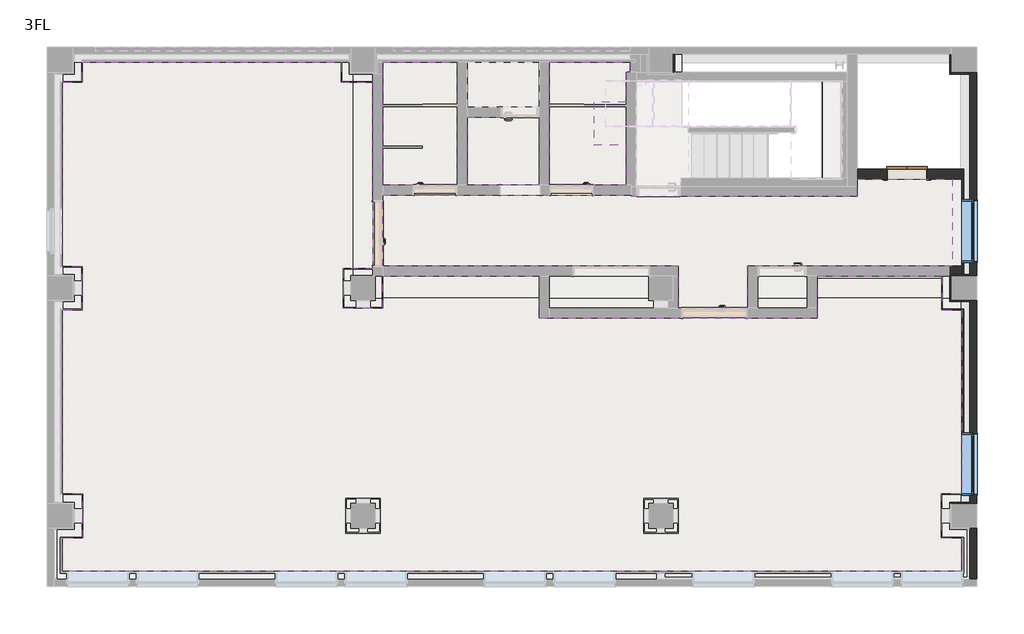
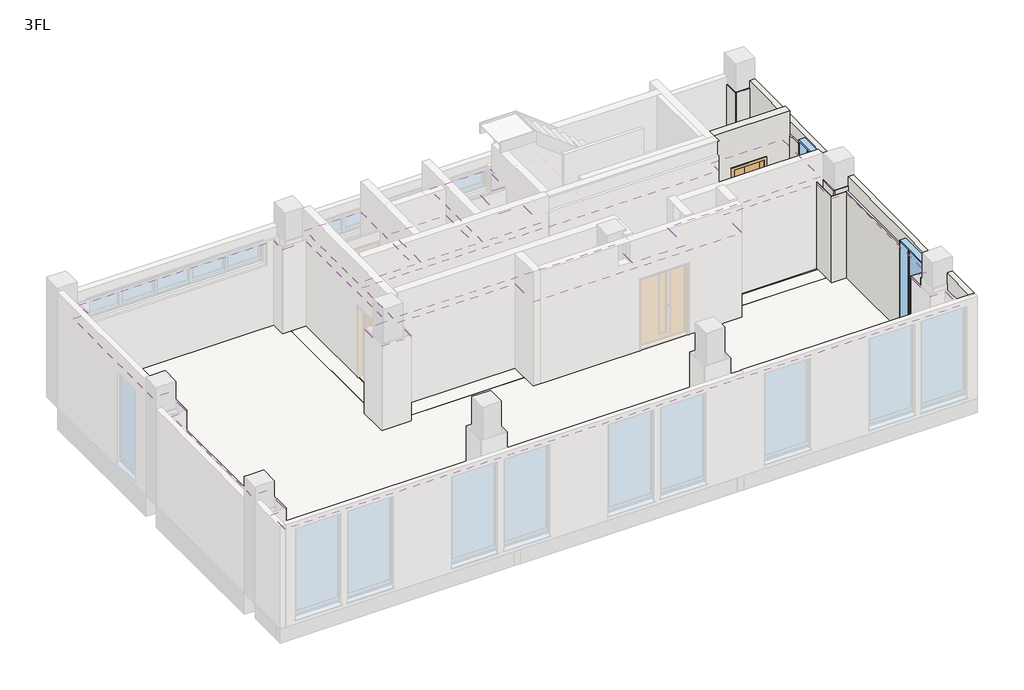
# One storey, part 3 of 4: 16 walls, 10 slabs, 6 coverings, 2 windows, 1 door.
"""IFC4 building model written with IfcOpenShell, lengths in millimetres."""

import ifcopenshell
import ifcopenshell.guid

model = None  # the IFC model being written
_history = None  # IfcOwnerHistory: only IFC2X3 demands one
_inside = {}  # id of a spatial element -> (the spatial element, [elements in it])
_under = {}  # id of a project, library or spatial element -> (it, [spatial elements below it])
_declared = {}  # id of a project -> (the project, [libraries it declares])
_typed = {}  # id of a type object -> (the type object, [elements of that type])
_made_of = {}  # id of a material, layer set ... -> (it, [elements and type objects made of it])


def new_model(schema):
    """Start an empty IFC model of exactly this schema.

    Asked for "IFC4X3", IfcOpenShell would pick the latest addendum, in which some entities
    have other attributes; the version numbers below select the first issue.
    IFC2X3 requires an IfcOwnerHistory on every rooted entity: one is made here for all.
    """
    global model, _history
    if schema == "IFC4X3":
        model = ifcopenshell.file(schema_version=(4, 3, 0, 0))
    else:
        model = ifcopenshell.file(schema=schema)
    _inside.clear()
    _under.clear()
    _declared.clear()
    _typed.clear()
    _made_of.clear()
    _history = None
    if model.schema == "IFC2X3":
        org = make("IfcOrganization", Name="unknown")
        user = make(
            "IfcPersonAndOrganization",
            ThePerson=make("IfcPerson", FamilyName="unknown"),
            TheOrganization=org,
        )
        app = make(
            "IfcApplication",
            ApplicationDeveloper=org,
            Version="unknown",
            ApplicationFullName="unknown",
            ApplicationIdentifier="unknown",
        )
        _history = make(
            "IfcOwnerHistory",
            OwningUser=user,
            OwningApplication=app,
            ChangeAction="ADDED",
            CreationDate=0,
        )
    return model


def make(cls, **values):
    """One entity of the class cls with the attributes given. An attribute that is None is left unset."""
    return model.create_entity(
        cls, **{name: value for name, value in values.items() if value is not None}
    )


def rooted(cls, **values):
    """An entity with a GlobalId (a new one), such as an element, a storey or a relation."""
    return make(cls, GlobalId=ifcopenshell.guid.new(), OwnerHistory=_history, **values)


def si_unit(unit_type, name, prefix=None):
    """IfcSIUnit, for example si_unit("LENGTHUNIT", "METRE", prefix="MILLI")."""
    return make("IfcSIUnit", UnitType=unit_type, Prefix=prefix, Name=name)


def assignment(units):
    """IfcUnitAssignment: the units of a project."""
    return None if units is None else make("IfcUnitAssignment", Units=units)


def point(xyz):
    """IfcCartesianPoint."""
    return None if xyz is None else make("IfcCartesianPoint", Coordinates=xyz)


def direction(xyz):
    """IfcDirection."""
    return None if xyz is None else make("IfcDirection", DirectionRatios=xyz)


def frame(location, z_axis=None, x_axis=None):
    """IfcAxis2Placement3D, a coordinate frame: its origin and axes. An axis left out is left unset."""
    return make(
        "IfcAxis2Placement3D",
        Location=point(location),
        Axis=direction(z_axis),
        RefDirection=direction(x_axis),
    )


def origin():
    """The frame at (0, 0, 0) with its axes left unset."""
    return frame((0.0, 0.0, 0.0))


def origin_with_axes():
    """The frame at (0, 0, 0) with the z axis (0, 0, 1) and the x axis (1, 0, 0) written out."""
    return frame((0.0, 0.0, 0.0), z_axis=(0.0, 0.0, 1.0), x_axis=(1.0, 0.0, 0.0))


def place(relative_to, where):
    """IfcLocalPlacement: puts the frame where relative to a parent placement (None: the world)."""
    return make(
        "IfcLocalPlacement", PlacementRelTo=relative_to, RelativePlacement=where
    )


def context(
    kind, dimensions, precision=None, world=None, true_north=None, identifier=None
):
    """IfcGeometricRepresentationContext, for example the 3D "Model" context."""
    return make(
        "IfcGeometricRepresentationContext",
        ContextIdentifier=identifier,
        ContextType=kind,
        CoordinateSpaceDimension=dimensions,
        Precision=precision,
        WorldCoordinateSystem=world,
        TrueNorth=true_north,
    )


def project(units=None, contexts=None):
    """IfcProject with its units and contexts."""
    return rooted(
        "IfcProject",
        Name="project",
        RepresentationContexts=contexts,
        UnitsInContext=assignment(units),
    )


def spatial(cls, under=None, at=None, **own):
    """A site, building, storey or space (cls), placed at a placement, below another one or the project."""
    s = rooted(cls, ObjectPlacement=at, **own)
    if under is not None:
        _under.setdefault(under.id(), (under, []))[1].append(s)
    return s


def polyline(points):
    """IfcPolyline through the points."""
    return make("IfcPolyline", Points=[point(p) for p in points])


def outline(outer, holes=None, kind="AREA"):
    """IfcArbitraryClosedProfileDef: a profile drawn as a closed curve; with holes, ...WithVoids."""
    if holes is None:
        return make("IfcArbitraryClosedProfileDef", ProfileType=kind, OuterCurve=outer)
    return make(
        "IfcArbitraryProfileDefWithVoids",
        ProfileType=kind,
        OuterCurve=outer,
        InnerCurves=holes,
    )


def extrude(swept, where, along, depth):
    """IfcExtrudedAreaSolid: the profile swept, set in the frame where, extruded along a direction by depth."""
    return make(
        "IfcExtrudedAreaSolid",
        SweptArea=swept,
        Position=where,
        ExtrudedDirection=direction(along),
        Depth=depth,
    )


def faces_of(points, faces, orient=None, outer=None):
    """IfcFace entities. A face is a list of loops; a loop is a list of indices into points, from 0.

    orient and outer hold one flag for each loop. By default every Orientation is true, the
    first loop of a face is its IfcFaceOuterBound and the others are IfcFaceBound.
    """
    made = []
    for i, loops in enumerate(faces):
        bounds = []
        for j, loop in enumerate(loops):
            is_outer = j == 0 if outer is None else outer[i][j]
            bounds.append(
                make(
                    "IfcFaceOuterBound" if is_outer else "IfcFaceBound",
                    Bound=make("IfcPolyLoop", Polygon=[points[k] for k in loop]),
                    Orientation=True if orient is None else orient[i][j],
                )
            )
        made.append(make("IfcFace", Bounds=bounds))
    return made


def faceted_brep(points, faces, orient=None, outer=None, voids=None):
    """IfcFacetedBrep: a solid bounded by flat faces; with voids (closed shells), ...WithVoids."""
    shared = [point(p) for p in points]
    hull = make("IfcClosedShell", CfsFaces=faces_of(shared, faces, orient, outer))
    if voids is None:
        return make("IfcFacetedBrep", Outer=hull)
    return make(
        "IfcFacetedBrepWithVoids",
        Outer=hull,
        Voids=[
            make(cls, CfsFaces=faces_of(shared, fs, o, b)) for cls, fs, o, b in voids
        ],
    )


def shape(context_of_items, identifier, shape_type, items):
    """IfcShapeRepresentation: the items that make up one representation, for example the "Body"."""
    return make(
        "IfcShapeRepresentation",
        ContextOfItems=context_of_items,
        RepresentationIdentifier=identifier,
        RepresentationType=shape_type,
        Items=items,
    )


def source(mapping_origin, context_of_items, identifier, shape_type, items):
    """IfcRepresentationMap: a shape defined once, which mapped items show again and again."""
    return make(
        "IfcRepresentationMap",
        MappingOrigin=mapping_origin,
        MappedRepresentation=shape(context_of_items, identifier, shape_type, items),
    )


def transform(
    local_origin,
    x_axis=None,
    y_axis=None,
    z_axis=None,
    scale=None,
    scale2=None,
    scale3=None,
    uniform=True,
):
    """IfcCartesianTransformationOperator3D, or its non-uniform kind. x_axis, y_axis, z_axis: its Axis1, 2, 3."""
    if uniform:
        return make(
            "IfcCartesianTransformationOperator3D",
            Axis1=direction(x_axis),
            Axis2=direction(y_axis),
            LocalOrigin=point(local_origin),
            Scale=scale,
            Axis3=direction(z_axis),
        )
    return make(
        "IfcCartesianTransformationOperator3DnonUniform",
        Axis1=direction(x_axis),
        Axis2=direction(y_axis),
        LocalOrigin=point(local_origin),
        Scale=scale,
        Axis3=direction(z_axis),
        Scale2=scale2,
        Scale3=scale3,
    )


def mapped(mapping_source, mapping_target):
    """IfcMappedItem: shows the shape of a source again, moved by a transform."""
    return make(
        "IfcMappedItem", MappingSource=mapping_source, MappingTarget=mapping_target
    )


def made_of(thing, what):
    """Note that an element or type object is made of a material, layer set ...; save() writes the relation."""
    if what is not None:
        _made_of.setdefault(what.id(), (what, []))[1].append(thing)
    return thing


def element(
    cls,
    number,
    at=None,
    inside=None,
    cuts=None,
    type_object=None,
    material=None,
    context=None,
    identifier="Body",
    shape_type=None,
    held_by="IfcProductDefinitionShape",
    body=None,
    shapes=None,
    **own,
):
    """One element of the class cls, such as IfcWall. Its Tag is "e" and its number.

    at: its placement. inside: the storey or other place that contains it. cuts: it is an
    opening in that element (IfcRelVoidsElement). A single representation is given by context,
    identifier, shape_type and body (its items); several are given by shapes. held_by: the class
    of the entity that holds the representations. save() writes the other relations.
    """
    e = rooted(cls, Tag="e%d" % number, ObjectPlacement=at, **own)
    if body is not None:
        shapes = [shape(context, identifier, shape_type, body)]
    if shapes is not None:
        e.Representation = make(held_by, Representations=shapes)
    if inside is not None:
        _inside.setdefault(inside.id(), (inside, []))[1].append(e)
    if cuts is not None:
        rooted(
            "IfcRelVoidsElement", RelatingBuildingElement=cuts, RelatedOpeningElement=e
        )
    if type_object is not None:
        _typed.setdefault(type_object.id(), (type_object, []))[1].append(e)
    return made_of(e, material)


def aggregate(whole, parts):
    """IfcRelAggregates: a whole, such as a stair, and the parts it consists of."""
    return rooted("IfcRelAggregates", RelatingObject=whole, RelatedObjects=parts)


def save(model, path):
    """Write the relations noted so far, then the file.

    IfcRelAggregates (storeys below a building ...), IfcRelContainedInSpatialStructure (elements
    in a storey), IfcRelDefinesByType, IfcRelAssociatesMaterial and IfcRelDeclares: one each for
    every whole, place, type object, material and project.
    """
    for whole, parts in _under.values():
        aggregate(whole, parts)
    for where, things in _inside.values():
        rooted(
            "IfcRelContainedInSpatialStructure",
            RelatedElements=things,
            RelatingStructure=where,
        )
    for kind, things in _typed.values():
        rooted("IfcRelDefinesByType", RelatedObjects=things, RelatingType=kind)
    for what, things in _made_of.values():
        rooted("IfcRelAssociatesMaterial", RelatedObjects=things, RelatingMaterial=what)
    for by, libraries in _declared.values():
        rooted("IfcRelDeclares", RelatingContext=by, RelatedDefinitions=libraries)
    model.write(path)


def covering_536f3d13(model_context):
    return source(origin(), model_context, "Body", "SweptSolid", [
        extrude(outline(polyline([(15338.9999956, 6804.5), (15334.9999956, 6804.5), (15335.0, 8789.9999902), (15339.0, 8789.9999902), (15338.9999956, 6804.5)])), frame((0.0, 0.0, 954.0), z_axis=(0.0, 0.0, 1.0), x_axis=(1.0, 0.0, 0.0)), (0.0, 0.0, 1.0), 788.5),
    ])


def elv_h2000xw800_aa5de070(model_context):
    return source(origin(), model_context, "Body", "SweptSolid", [
        extrude(outline(polyline([(-102.3106443, 100.0), (-505.4856443, 100.0), (-505.4856443, 150.8), (-102.3106443, 150.8), (-102.3106443, 100.0)])), origin_with_axes(), (0.0, 0.0, 1.0), 2025.4),
        extrude(outline(polyline([(307.2143557, 100.0), (-95.9606443, 100.0), (-95.9606443, 150.8), (307.2143557, 150.8), (307.2143557, 100.0)])), origin_with_axes(), (0.0, 0.0, 1.0), 2025.4),
        extrude(outline(polyline([(0.0, -505.4856443), (0.0, -499.1356443), (2000.0, -499.1356443), (2000.0, 300.8643557), (0.0, 300.8643557), (0.0, 307.2143557), (2025.4, 307.2143557), (2025.4, -505.4856443), (0.0, -505.4856443)])), frame((0.0, -100.0, 0.0), z_axis=(0.0, 1.0, 0.0), x_axis=(0.0, 0.0, 1.0)), (0.0, 0.0, 1.0), 200.0),
        extrude(outline(polyline([(0.0, -574.1356443), (0.0, -499.1356443), (2000.0, -499.1356443), (2000.0, 300.8643557), (0.0, 300.8643557), (0.0, 375.8643557), (2075.0, 375.8643557), (2075.0, -574.1356443), (0.0, -574.1356443)])), frame((0.0, -125.0, 0.0), z_axis=(0.0, 1.0, 0.0), x_axis=(0.0, 0.0, 1.0)), (0.0, 0.0, 1.0), 25.0),
    ])


def window_02fdaeb4(model_context):
    return source(origin(), model_context, "Body", "SweptSolid", [
        extrude(outline(polyline([(2.5, 835.0), (87.5, 795.0), (87.5, 775.0), (82.5014518, 775.0), (82.5014518, 791.8262891), (-2.5, 831.8269723), (-2.5, 850.0), (2.5, 850.0), (2.5, 835.0)])), frame((-630.0, 0.0, 0.0), z_axis=(1.0, 0.0, 0.0), x_axis=(0.0, 1.0, 0.0)), (0.0, 0.0, 1.0), 1260.0),
        extrude(outline(polyline([(560.0, -10.0), (-560.0, -10.0), (-560.0, -5.0), (560.0, -5.0), (560.0, -10.0)])), frame((0.0, 0.0, 990.0), z_axis=(0.0, 0.0, 1.0), x_axis=(1.0, 0.0, 0.0)), (0.0, 0.0, 1.0), 2340.0),
        extrude(outline(polyline([(3370.0, 600.0), (3370.0, -600.0), (900.0, -600.0), (900.0, 600.0), (3370.0, 600.0)]), holes=[polyline([(3330.0, 560.0), (990.0, 560.0), (990.0, -560.0), (3330.0, -560.0), (3330.0, 560.0)])]), frame((0.0, -22.5, 0.0), z_axis=(0.0, 1.0, 0.0), x_axis=(0.0, 0.0, 1.0)), (0.0, 0.0, 1.0), 30.0),
        extrude(outline(polyline([(-232.5, 850.0), (-232.5, 900.0), (12.5, 890.6666667), (12.5, 850.0), (-232.5, 850.0)])), frame((-600.0, 0.0, 0.0), z_axis=(1.0, 0.0, 0.0), x_axis=(0.0, 1.0, 0.0)), (0.0, 0.0, 1.0), 1200.0),
        extrude(outline(polyline([(850.0, -630.0), (850.0, -600.0), (3370.0, -600.0), (3370.0, 600.0), (850.0, 600.0), (850.0, 630.0), (3400.0, 630.0), (3400.0, -630.0), (850.0, -630.0)])), frame((0.0, -232.5, 0.0), z_axis=(0.0, 1.0, 0.0), x_axis=(0.0, 0.0, 1.0)), (0.0, 0.0, 1.0), 245.0),
    ])


model = new_model("IFC4")

# Units and contexts
model_context = context("Model", 3, world=origin())
ifc_project = project(units=[si_unit("LENGTHUNIT", "METRE", prefix="MILLI")], contexts=[model_context])

# Site, building, storey
site = spatial("IfcSite", under=ifc_project)
building = spatial("IfcBuilding", under=site)
storey = spatial("IfcBuildingStorey", under=building, Name="3FL", Elevation=6700.0)

# Coverings
placement = place(None, origin())
element("IfcCovering", 1, ObjectType="t=4mm", at=placement, inside=storey, context=model_context, shape_type="SweptSolid", body=[
    extrude(outline(polyline([(18147.5000006, -442.5001201), (18147.5000006, -1117.5000822), (32.4998768, -1117.5000822), (32.4998768, -442.4999706), (448.5, -442.4999706), (448.5, 442.4996399), (32.5, 442.4996399), (32.5, 4151.5), (438.5, 4151.5), (438.5, 5028.5), (32.4999974, 5028.5), (32.4999974, 8741.5), (438.5, 8741.5), (438.5, 9147.500003), (5651.5, 9147.500003), (5651.5, 8741.5), (6290.0, 8741.5), (6290.0, 4988.5), (5687.4999426, 4988.5), (5687.4999426, 4187.5000823), (6489.9999994, 4187.5000823), (6489.9999994, 4830.0), (9640.0, 4830.0), (9640.0, 3990.0), (15240.0, 3990.0), (15240.0, 4830.0), (17741.5, 4830.0), (17741.5, 4151.5), (18147.4999993, 4151.5), (18147.4999993, 442.499689), (17731.5010313, 442.499689), (17731.5010313, -442.5001201), (18147.5000006, -442.5001201)]), holes=[polyline([(6440.0, -350.0), (6440.0, 350.0), (5740.0, 350.0), (5740.0, -350.0), (6440.0, -350.0)]), polyline([(12438.5, -348.5), (12438.5, 348.5), (11741.5, 348.5), (11741.5, -348.5), (12438.5, -348.5)])]), frame((0.0, 0.0, 9100.0), z_axis=(0.0, 0.0, 1.0), x_axis=(1.0, 0.0, 0.0)), (0.0, 0.0, 1.0), 4.0),
])
element("IfcCovering", 2, ObjectType="t=4mm", at=placement, inside=storey, context=model_context, shape_type="SweptSolid", body=[
    extrude(outline(polyline([(6490.0, 6465.5), (11490.0, 6465.5), (11490.0, 6440.0), (16040.0, 6440.0), (16040.0, 6790.0), (17955.0, 6790.0), (17955.0, 5030.0), (13840.0, 5030.0), (13840.0, 4190.0), (12440.0, 4190.0), (12440.0, 5030.0), (6490.0, 5030.0), (6490.0, 6465.5)])), frame((0.0, 0.0, 9100.0), z_axis=(0.0, 0.0, 1.0), x_axis=(1.0, 0.0, 0.0)), (0.0, 0.0, 1.0), 4.0),
])
element("IfcCovering", 3, ObjectType="t=4mm", at=placement, inside=storey, context=model_context, shape_type="SweptSolid", body=[
    extrude(outline(polyline([(7990.0, 9147.500003), (7990.0, 6665.5), (6490.0, 6665.5), (6490.0, 9147.500003), (7990.0, 9147.500003)])), frame((0.0, 0.0, 9100.0), z_axis=(0.0, 0.0, 1.0), x_axis=(1.0, 0.0, 0.0)), (0.0, 0.0, 1.0), 4.0),
])
element("IfcCovering", 4, ObjectType="t=4mm", at=placement, inside=storey, context=model_context, shape_type="SweptSolid", body=[
    extrude(outline(polyline([(9640.0, 6665.5), (8190.0, 6665.5), (8190.0, 8040.0), (9640.0, 8040.0), (9640.0, 6665.5)])), frame((0.0, 0.0, 9100.0), z_axis=(0.0, 0.0, 1.0), x_axis=(1.0, 0.0, 0.0)), (0.0, 0.0, 1.0), 4.0),
])
element("IfcCovering", 5, ObjectType="t=4mm", at=placement, inside=storey, context=model_context, shape_type="SweptSolid", body=[
    extrude(outline(polyline([(11470.0, 9147.500003), (11470.0, 8947.5), (11390.0, 8947.5), (11390.0, 8342.5), (10732.5, 8342.5), (10732.5, 7482.5), (11390.0, 7482.5), (11390.0, 6665.5), (9840.0, 6665.5), (9840.0, 9147.500003), (11470.0, 9147.500003)])), frame((0.0, 0.0, 9100.0), z_axis=(0.0, 0.0, 1.0), x_axis=(1.0, 0.0, 0.0)), (0.0, 0.0, 1.0), 4.0),
])
covering_shape = covering_536f3d13(model_context)
element("IfcCovering", 6, ObjectType="天井 3 : 天井 1", at=placement, inside=storey, context=model_context, shape_type="MappedRepresentation", body=[
    mapped(covering_shape, transform((0.0, 0.0, 6685.7142857), x_axis=(1.0, 0.0, 0.0), y_axis=(0.0, 1.0, 0.0), z_axis=(0.0, 0.0, 1.0))),
])

# Door
elv_h2000xw800_shape = elv_h2000xw800_aa5de070(model_context)
element("IfcDoor", 7, ObjectType="D_EV_壁付 : ELV_H2000xW800", at=placement, inside=storey, context=model_context, shape_type="MappedRepresentation", body=[
    mapped(elv_h2000xw800_shape, transform((17145.4856443, 6890.0, 6700.0), x_axis=(1.0, 0.0, 0.0), y_axis=(0.0, 1.0, 0.0), z_axis=(0.0, 0.0, 1.0))),
])

# Slabs
element("IfcSlab", 8, ObjectType="OAフロアの上タイルカーペット", at=placement, inside=storey, context=model_context, shape_type="Brep", body=[
    faceted_brep([(438.5, 9147.500003, 6650.0), (5651.5, 9147.500003, 6650.0), (5651.5, 8741.5, 6650.0), (5890.0, 8741.5, 6650.0), (5890.0, 4988.5, 6650.0), (5687.4999426, 4988.5, 6650.0), (5687.4999426, 4187.5000823, 6650.0), (6489.9999994, 4187.5000823, 6650.0), (6489.9999994, 4390.0, 6650.0), (9640.0, 4390.0, 6650.0), (9640.0, 3990.0, 6650.0), (15240.0, 3990.0, 6650.0), (15240.0, 4390.0, 6650.0), (17741.5, 4390.0, 6650.0), (17741.5, 4151.5, 6650.0), (18147.4999993, 4151.5, 6650.0), (18147.4999993, 442.499689, 6650.0), (17731.5010313, 442.499689, 6650.0), (17731.5010313, -442.5001201, 6650.0), (18147.5000006, -442.5001201, 6650.0), (18147.5000006, -1117.5000822, 6650.0), (32.4999974, -1117.5000822, 6650.0), (32.4999974, -442.4999706, 6650.0), (448.5, -442.4999706, 6650.0), (448.5, 442.4996399, 6650.0), (32.4999974, 442.4996399, 6650.0), (32.4999974, 4151.5, 6650.0), (438.5, 4151.5, 6650.0), (438.5, 5028.5, 6650.0), (32.4999974, 5028.5, 6650.0), (32.4999974, 8741.5, 6650.0), (438.5, 8741.5, 6650.0), (5740.0, 350.0, 6650.0), (5740.0, -350.0, 6650.0), (6440.0, -350.0, 6650.0), (6440.0, 350.0, 6650.0), (11741.5, 348.5, 6650.0), (11741.5, -348.5, 6650.0), (12438.5, -348.5, 6650.0), (12438.5, 348.5, 6650.0), (5651.5, 9147.500003, 6700.0), (438.5, 9147.500003, 6700.0), (438.5, 8741.5, 6700.0), (32.4999974, 8741.5, 6700.0), (32.4999974, 5028.5, 6700.0), (438.5, 5028.5, 6700.0), (438.5, 4151.5, 6700.0), (32.4999974, 4151.5, 6700.0), (32.4999974, 442.4996399, 6700.0), (448.5, 442.4996399, 6700.0), (448.5, -442.4999706, 6700.0), (32.4999974, -442.4999706, 6700.0), (32.4999974, -1117.5000822, 6700.0), (18147.5000006, -1117.5000822, 6700.0), (18147.5000006, -442.5001201, 6700.0), (17731.5010313, -442.5001201, 6700.0), (17731.5010313, 442.499689, 6700.0), (18147.4999993, 442.499689, 6700.0), (18147.4999993, 4151.5, 6700.0), (17741.5, 4151.5, 6700.0), (17741.5, 4390.0, 6700.0), (15240.0, 4390.0, 6700.0), (15240.0, 3990.0, 6700.0), (9640.0, 3990.0, 6700.0), (9640.0, 4390.0, 6700.0), (6489.9999994, 4390.0, 6700.0), (6489.9999994, 4187.5000823, 6700.0), (5687.4999426, 4187.5000823, 6700.0), (5687.4999426, 4988.5, 6700.0), (5890.0, 4988.5, 6700.0), (5890.0, 8741.5, 6700.0), (5651.5, 8741.5, 6700.0), (5740.0, -350.0, 6700.0), (5740.0, 350.0, 6700.0), (6440.0, 350.0, 6700.0), (6440.0, -350.0, 6700.0), (11741.5, -348.5, 6700.0), (11741.5, 348.5, 6700.0), (12438.5, 348.5, 6700.0), (12438.5, -348.5, 6700.0), (5890.0, 8741.5, 6690.0), (5890.0, 4988.5, 6690.0), (6489.9999994, 4390.0, 6690.0), (9640.0, 4390.0, 6690.0), (15240.0, 4390.0, 6690.0), (17741.5, 4390.0, 6690.0)], [[[0, 1, 2, 3, 4, 5, 6, 7, 8, 9, 10, 11, 12, 13, 14, 15, 16, 17, 18, 19, 20, 21, 22, 23, 24, 25, 26, 27, 28, 29, 30, 31], [32, 33, 34, 35], [36, 37, 38, 39]], [[40, 41, 42, 43, 44, 45, 46, 47, 48, 49, 50, 51, 52, 53, 54, 55, 56, 57, 58, 59, 60, 61, 62, 63, 64, 65, 66, 67, 68, 69, 70, 71], [72, 73, 74, 75], [76, 77, 78, 79]], [[1, 0, 41, 40]], [[2, 1, 40, 71]], [[3, 2, 71, 70, 80]], [[4, 3, 80, 70, 69, 81]], [[5, 4, 81, 69, 68]], [[6, 5, 68, 67]], [[7, 6, 67, 66]], [[8, 7, 66, 65, 82]], [[9, 8, 82, 65, 64, 83]], [[10, 9, 83, 64, 63]], [[11, 10, 63, 62]], [[12, 11, 62, 61, 84]], [[13, 12, 84, 61, 60, 85]], [[21, 20, 53, 52]], [[30, 29, 44, 43]], [[16, 15, 58, 57]], [[22, 21, 52, 51]], [[23, 22, 51, 50]], [[24, 23, 50, 49]], [[25, 24, 49, 48]], [[26, 25, 48, 47]], [[27, 26, 47, 46]], [[28, 27, 46, 45]], [[29, 28, 45, 44]], [[31, 30, 43, 42]], [[0, 31, 42, 41]], [[14, 13, 85, 60, 59]], [[15, 14, 59, 58]], [[17, 16, 57, 56]], [[18, 17, 56, 55]], [[19, 18, 55, 54]], [[20, 19, 54, 53]], [[33, 32, 73, 72]], [[34, 33, 72, 75]], [[35, 34, 75, 74]], [[32, 35, 74, 73]], [[37, 36, 77, 76]], [[38, 37, 76, 79]], [[39, 38, 79, 78]], [[36, 39, 78, 77]]]),
])
element("IfcSlab", 9, ObjectType="タイルカーペット t=10mm", at=placement, inside=storey, context=model_context, shape_type="SweptSolid", body=[
    extrude(outline(polyline([(9640.0, 4390.0), (6489.9999994, 4390.0), (6489.9999994, 4830.0), (9640.0, 4830.0), (9640.0, 4390.0)])), frame((0.0, 0.0, 6690.0), z_axis=(0.0, 0.0, 1.0), x_axis=(1.0, 0.0, 0.0)), (0.0, 0.0, 1.0), 10.0),
    extrude(outline(polyline([(17741.5, 4390.0), (15240.0, 4390.0), (15240.0, 4782.5), (17741.5, 4782.5), (17741.5, 4390.0)])), frame((0.0, 0.0, 6690.0), z_axis=(0.0, 0.0, 1.0), x_axis=(1.0, 0.0, 0.0)), (0.0, 0.0, 1.0), 10.0),
])
element("IfcSlab", 10, ObjectType="ビニル床ビシート t=10mm", at=placement, inside=storey, context=model_context, shape_type="Brep", body=[
    faceted_brep([(13840.0, 5030.0, 6690.0), (13840.0, 4190.0, 6690.0), (12440.0, 4190.0, 6690.0), (12440.0, 5030.0, 6690.0), (6490.0, 5030.0, 6690.0), (6490.0, 6465.5, 6690.0), (9875.0, 6465.5, 6690.0), (10705.0, 6465.5, 6690.0), (11490.0, 6465.5, 6690.0), (11490.0, 6440.0, 6690.0), (12512.5, 6440.0, 6690.0), (16040.0, 6440.0, 6690.0), (16040.0, 6790.0, 6690.0), (18147.5, 6790.0, 6690.0), (18147.5, 5030.0, 6690.0), (13840.0, 4190.0, 6700.0), (13840.0, 5030.0, 6700.0), (18147.5, 5030.0, 6700.0), (18147.5, 6790.0, 6700.0), (16040.0, 6790.0, 6700.0), (16040.0, 6440.0, 6700.0), (12467.5, 6440.0, 6700.0), (11612.5, 6440.0, 6700.0), (11490.0, 6440.0, 6700.0), (11490.0, 6465.5, 6700.0), (10705.0, 6465.5, 6700.0), (9875.0, 6465.5, 6700.0), (6490.0, 6465.5, 6700.0), (6490.0, 5030.0, 6700.0), (12440.0, 5030.0, 6700.0), (12440.0, 4190.0, 6700.0)], [[[0, 1, 2, 3, 4, 5, 6, 7, 8, 9, 10, 11, 12, 13, 14]], [[15, 16, 17, 18, 19, 20, 21, 22, 23, 24, 25, 26, 27, 28, 29, 30]], [[1, 0, 16, 15]], [[2, 1, 15, 30]], [[3, 2, 30, 29]], [[4, 3, 29, 28]], [[5, 4, 28, 27]], [[5, 27, 26, 25, 24, 8, 7, 6]], [[19, 12, 11, 20]], [[13, 12, 19, 18]], [[14, 13, 18, 17]], [[0, 14, 17, 16]], [[9, 23, 22, 21, 20, 11, 10]], [[23, 9, 8, 24]]]),
])
element("IfcSlab", 11, ObjectType="ビニル床ビシート t=10mm", at=placement, inside=storey, context=model_context, shape_type="SweptSolid", body=[
    extrude(outline(polyline([(11390.0, 6665.5), (10705.0, 6665.5), (10705.0, 6465.5), (9875.0, 6465.5), (9875.0, 6675.5), (9840.0, 6675.5), (9840.0, 9130.0), (11470.0, 9130.0), (11470.0, 8947.5), (11390.0, 8947.5), (11390.0, 6665.5)])), frame((0.0, 0.0, 6690.0), z_axis=(0.0, 0.0, 1.0), x_axis=(1.0, 0.0, 0.0)), (0.0, 0.0, 1.0), 10.0),
])
element("IfcSlab", 12, ObjectType="ビニル床ビシート t=10mm", at=placement, inside=storey, context=model_context, shape_type="Brep", body=[
    faceted_brep([(9640.0, 6665.5, 6690.0), (8190.0, 6665.5, 6690.0), (8190.0, 8040.0, 6690.0), (9640.0, 8040.0, 6690.0), (8190.0, 6665.5, 6700.0), (9640.0, 6665.5, 6700.0), (9640.0, 8040.0, 6700.0), (9617.5, 8040.0, 6700.0), (8862.5, 8040.0, 6700.0), (8190.0, 8040.0, 6700.0)], [[[0, 1, 2, 3]], [[4, 5, 6, 7, 8, 9]], [[1, 0, 5, 4]], [[1, 4, 9, 2]], [[5, 0, 3, 6]], [[3, 2, 9, 8, 7, 6]]]),
    faceted_brep([(8190.0, 9130.0, 6690.0), (9640.0, 9130.0, 6690.0), (9640.0, 8240.0, 6690.0), (8190.0, 8240.0, 6690.0), (9640.0, 9130.0, 6700.0), (8190.0, 9130.0, 6700.0), (8190.0, 8240.0, 6700.0), (8862.5, 8240.0, 6700.0), (9617.5, 8240.0, 6700.0), (9640.0, 8240.0, 6700.0)], [[[0, 1, 2, 3]], [[4, 5, 6, 7, 8, 9]], [[5, 0, 3, 6]], [[1, 0, 5, 4]], [[1, 4, 9, 2]], [[3, 2, 9, 8, 7, 6]]]),
])
element("IfcSlab", 13, ObjectType="ビニル床ビシート t=10mm", at=placement, inside=storey, context=model_context, shape_type="SweptSolid", body=[
    extrude(outline(polyline([(7990.0, 6665.5), (6490.0, 6665.5), (6490.0, 9130.0), (7990.0, 9130.0), (7990.0, 6665.5)])), frame((0.0, 0.0, 6690.0), z_axis=(0.0, 0.0, 1.0), x_axis=(1.0, 0.0, 0.0)), (0.0, 0.0, 1.0), 10.0),
])
element("IfcSlab", 14, ObjectType="タイルカーペット t=10mm", at=placement, inside=storey, context=model_context, shape_type="SweptSolid", body=[
    extrude(outline(polyline([(5890.0, 4988.5), (5890.0, 8741.5), (6290.0, 8741.5), (6290.0, 4988.5), (5890.0, 4988.5)])), frame((0.0, 0.0, 6690.0), z_axis=(0.0, 0.0, 1.0), x_axis=(1.0, 0.0, 0.0)), (0.0, 0.0, 1.0), 10.0),
])
element("IfcSlab", 15, ObjectType="DS1t150", at=placement, inside=storey, context=model_context, shape_type="SweptSolid", body=[
    extrude(outline(polyline([(-70.0, -1275.0), (-70.0, -250.0), (250.0, -250.0), (250.0, -150.0), (5840.0, -150.0), (5840.0, -250.0), (6000.0, -250.0), (6000.0, -1275.0), (-70.0, -1275.0)])), frame((0.0, 0.0, 6400.0), z_axis=(0.0, 0.0, 1.0), x_axis=(1.0, 0.0, 0.0)), (0.0, 0.0, 1.0), 150.0),
    extrude(outline(polyline([(12340.0, -150.0), (17930.0, -150.0), (17930.0, -250.0), (18250.0, -250.0), (18250.0, -1230.0), (12180.0, -1230.0), (12180.0, -250.0), (12340.0, -250.0), (12340.0, -150.0)])), frame((0.0, 0.0, 6400.0), z_axis=(0.0, 0.0, 1.0), x_axis=(1.0, 0.0, 0.0)), (0.0, 0.0, 1.0), 150.0),
    extrude(outline(polyline([(12000.0, -1275.0), (6180.0, -1275.0), (6180.0, -250.0), (6340.0, -250.0), (6340.0, -150.0), (11840.0, -150.0), (11840.0, -250.0), (12000.0, -250.0), (12000.0, -1275.0)])), frame((0.0, 0.0, 6400.0), z_axis=(0.0, 0.0, 1.0), x_axis=(1.0, 0.0, 0.0)), (0.0, 0.0, 1.0), 150.0),
])
element("IfcSlab", 16, ObjectType="DS1t150", at=placement, inside=storey, context=model_context, shape_type="Brep", body=[
    faceted_brep([(50.0, 4840.0, 6400.0), (50.0, 8930.0, 6400.0), (250.0, 8930.0, 6400.0), (250.0, 9130.0, 6400.0), (5840.0, 9130.0, 6400.0), (5840.0, 8930.0, 6400.0), (5940.0, 8930.0, 6400.0), (5940.0, 4840.0000077, 6400.0), (5840.0, 4840.0000077, 6400.0), (5840.0, 4740.0, 6400.0), (250.0, 4740.0, 6400.0), (250.0, 4840.0, 6400.0), (50.0, 8930.0, 6550.0), (50.0, 4840.0, 6550.0), (250.0, 4840.0, 6550.0), (250.0, 4740.0, 6550.0), (5840.0, 4740.0, 6550.0), (5840.0, 4840.0000077, 6550.0), (5940.0, 4840.0000077, 6550.0), (5940.0, 8930.0, 6550.0), (5890.0, 8930.0, 6550.0), (5840.0, 8930.0, 6550.0), (5840.0, 9130.0, 6550.0), (250.0, 9130.0, 6550.0), (250.0, 8930.0, 6550.0)], [[[0, 1, 2, 3, 4, 5, 6, 7, 8, 9, 10, 11]], [[12, 13, 14, 15, 16, 17, 18, 19, 20, 21, 22, 23, 24]], [[1, 0, 13, 12]], [[4, 3, 23, 22]], [[7, 6, 19, 18]], [[10, 9, 16, 15]], [[2, 1, 12, 24]], [[3, 2, 24, 23]], [[5, 4, 22, 21]], [[6, 5, 21, 20, 19]], [[8, 7, 18, 17]], [[9, 8, 17, 16]], [[11, 10, 15, 14]], [[0, 11, 14, 13]]]),
    faceted_brep([(5840.0, 4440.0, 6400.0), (5840.0, 4339.9999923, 6400.0), (5940.0, 4339.9999923, 6400.0), (5940.0, 250.0, 6400.0), (5840.0, 250.0, 6400.0), (5840.0, 150.0, 6400.0), (250.0, 150.0, 6400.0), (250.0, 250.0, 6400.0), (50.0, 250.0, 6400.0), (50.0, 4340.0, 6400.0), (250.0, 4340.0, 6400.0), (250.0, 4440.0, 6400.0), (5840.0, 4339.9999923, 6550.0), (5840.0, 4440.0, 6550.0), (250.0, 4440.0, 6550.0), (250.0, 4340.0, 6550.0), (50.0, 4340.0, 6550.0), (50.0, 250.0, 6550.0), (250.0, 250.0, 6550.0), (250.0, 150.0, 6550.0), (5840.0, 150.0, 6550.0), (5840.0, 250.0, 6550.0), (5940.0, 250.0, 6550.0), (5940.0, 4339.9999923, 6550.0)], [[[0, 1, 2, 3, 4, 5, 6, 7, 8, 9, 10, 11]], [[12, 13, 14, 15, 16, 17, 18, 19, 20, 21, 22, 23]], [[1, 0, 13, 12]], [[2, 1, 12, 23]], [[3, 2, 23, 22]], [[6, 5, 20, 19]], [[9, 8, 17, 16]], [[0, 11, 14, 13]], [[4, 3, 22, 21]], [[5, 4, 21, 20]], [[7, 6, 19, 18]], [[8, 7, 18, 17]], [[10, 9, 16, 15]], [[11, 10, 15, 14]]]),
    faceted_brep([(11840.0, 150.0, 6400.0), (6340.0, 150.0, 6400.0), (6340.0, 250.0, 6400.0), (6240.0, 250.0, 6400.0), (6240.0, 4339.9999923, 6400.0), (6340.0, 4339.9999923, 6400.0), (6340.0, 4440.0, 6400.0), (9640.0, 4440.0, 6400.0), (9840.0, 4440.0, 6400.0), (11840.0, 4440.0, 6400.0), (11840.0, 4340.0, 6400.0), (11940.0, 4340.0, 6400.0), (11940.0, 4190.0, 6400.0), (11940.0, 3990.0, 6400.0), (11940.0, 250.0, 6400.0), (11840.0, 250.0, 6400.0), (6340.0, 150.0, 6550.0), (11840.0, 150.0, 6550.0), (11840.0, 250.0, 6550.0), (11940.0, 250.0, 6550.0), (11940.0, 4340.0, 6550.0), (11840.0, 4340.0, 6550.0), (11840.0, 4390.0, 6550.0), (11840.0, 4440.0, 6550.0), (6340.0, 4440.0, 6550.0), (6340.0, 4390.0, 6550.0), (6340.0, 4339.9999923, 6550.0), (6240.0, 4339.9999923, 6550.0), (6240.0, 250.0, 6550.0), (6340.0, 250.0, 6550.0)], [[[0, 1, 2, 3, 4, 5, 6, 7, 8, 9, 10, 11, 12, 13, 14, 15]], [[16, 17, 18, 19, 20, 21, 22, 23, 24, 25, 26, 27, 28, 29]], [[1, 0, 17, 16]], [[4, 3, 28, 27]], [[9, 8, 7, 6, 24, 23]], [[14, 13, 12, 11, 20, 19]], [[15, 14, 19, 18]], [[0, 15, 18, 17]], [[2, 1, 16, 29]], [[3, 2, 29, 28]], [[5, 4, 27, 26]], [[6, 5, 26, 25, 24]], [[10, 9, 23, 22, 21]], [[11, 10, 21, 20]]]),
    faceted_brep([(12340.0, 4440.0, 6400.0), (12440.0, 4440.0, 6400.0), (13840.0, 4440.0, 6400.0), (14040.0, 4440.0, 6400.0), (15040.0, 4440.0, 6400.0), (15240.0, 4440.0, 6400.0), (17930.0, 4440.0, 6400.0), (17930.0, 4340.0, 6400.0), (18125.0, 4340.0, 6400.0), (18125.0, 250.0, 6400.0), (17930.0, 250.0, 6400.0), (17930.0, 150.0, 6400.0), (12340.0, 150.0, 6400.0), (12340.0, 250.0, 6400.0), (12240.0, 250.0, 6400.0), (12240.0, 3990.0, 6400.0), (12240.0, 4190.0, 6400.0), (12240.0, 4340.0, 6400.0), (12340.0, 4340.0, 6400.0), (17930.0, 4440.0, 6550.0), (12340.0, 4440.0, 6550.0), (12340.0, 4390.0, 6550.0), (12340.0, 4340.0, 6550.0), (12240.0, 4340.0, 6550.0), (12240.0, 250.0, 6550.0), (12340.0, 250.0, 6550.0), (12340.0, 150.0, 6550.0), (17930.0, 150.0, 6550.0), (17930.0, 250.0, 6550.0), (18125.0, 250.0, 6550.0), (18125.0, 4340.0, 6550.0), (17930.0, 4340.0, 6550.0), (17930.0, 4390.0, 6550.0)], [[[0, 1, 2, 3, 4, 5, 6, 7, 8, 9, 10, 11, 12, 13, 14, 15, 16, 17, 18]], [[19, 20, 21, 22, 23, 24, 25, 26, 27, 28, 29, 30, 31, 32]], [[6, 5, 4, 3, 2, 1, 0, 20, 19]], [[9, 8, 30, 29]], [[12, 11, 27, 26]], [[17, 16, 15, 14, 24, 23]], [[13, 12, 26, 25]], [[14, 13, 25, 24]], [[18, 17, 23, 22]], [[0, 18, 22, 21, 20]], [[7, 6, 19, 32, 31]], [[8, 7, 31, 30]], [[10, 9, 29, 28]], [[11, 10, 28, 27]]]),
])
element("IfcSlab", 17, ObjectType="DS1t150", at=placement, inside=storey, context=model_context, shape_type="Brep", body=[
    faceted_brep([(12364.9999035, 9305.0, 6540.0), (12512.5, 9305.0, 6540.0), (12512.5, 7716.0, 6540.0), (12732.5, 7716.0, 6540.0), (12732.5, 6804.5, 6540.0), (12512.5, 6804.5, 6540.0), (12512.5, 6640.0, 6540.0), (12512.5, 6440.0, 6540.0), (16040.0, 6440.0, 6540.0), (16040.0, 6990.0, 6540.0), (18130.0, 6990.0, 6540.0), (18130.0, 4840.0, 6540.0), (17930.0, 4840.0, 6540.0), (17930.0, 4740.0, 6540.0), (12340.0, 4740.0, 6540.0), (12340.0, 4830.0, 6540.0), (12340.0, 4840.0, 6540.0), (12240.0, 4840.0, 6540.0), (12240.0, 6440.0, 6540.0), (12240.0, 6640.0, 6540.0), (12240.0, 8930.0, 6540.0), (12364.9999035, 8930.0, 6540.0), (11840.0, 4740.0, 6540.0), (6340.0, 4740.0, 6540.0), (6340.0, 4830.0, 6540.0), (6340.0, 4840.0, 6540.0), (6290.0, 4840.0, 6540.0), (6240.0, 4840.0, 6540.0), (6240.0, 8930.0, 6540.0), (6340.0, 8930.0, 6540.0), (6340.0, 9130.0, 6540.0), (7990.0, 9130.0, 6540.0), (8190.0, 9130.0, 6540.0), (9640.0, 9130.0, 6540.0), (9840.0, 9130.0, 6540.0), (11840.0, 9130.0, 6540.0), (11840.0, 8930.0, 6540.0), (11940.0, 8930.0, 6540.0), (11940.0, 6640.0, 6540.0), (11940.0, 6440.0, 6540.0), (11940.0, 4840.0, 6540.0), (11840.0, 4840.0, 6540.0), (11840.0, 4830.0, 6540.0), (12512.5, 9305.0, 6690.0), (12364.9999035, 9305.0, 6690.0), (12364.9999035, 8947.5, 6690.0), (12364.9999035, 8930.0, 6690.0), (12360.0, 8930.0, 6690.0), (11840.0, 8930.0, 6690.0), (11840.0, 8947.5, 6690.0), (11840.0, 9130.0, 6690.0), (11814.9999426, 9130.0, 6690.0), (11670.0, 9130.0, 6690.0), (11470.0, 9130.0, 6690.0), (9840.0, 9130.0, 6690.0), (9640.0, 9130.0, 6690.0), (8190.0, 9130.0, 6690.0), (7990.0, 9130.0, 6690.0), (6490.0, 9130.0, 6690.0), (6365.0, 9130.0, 6690.0), (6340.0, 9130.0, 6690.0), (6340.0, 8930.0, 6690.0), (5890.0, 8930.0, 6690.0), (5890.0, 8905.0000823, 6690.0), (5890.0, 8754.0, 6690.0), (5890.0, 8741.5, 6690.0), (5890.0, 4988.5, 6690.0), (5890.0, 4976.0, 6690.0), (5890.0, 4840.0, 6690.0), (6290.0, 4840.0, 6690.0), (6340.0, 4840.0, 6690.0), (6340.0, 4830.0, 6690.0), (6340.0, 4390.0, 6690.0), (6477.4999994, 4390.0, 6690.0), (6489.9999994, 4390.0, 6690.0), (9640.0, 4390.0, 6690.0), (9840.0, 4390.0, 6690.0), (11840.0, 4390.0, 6690.0), (11840.0, 4830.0, 6690.0), (11840.0, 4840.0, 6690.0), (12340.0, 4840.0, 6690.0), (12340.0, 4830.0, 6690.0), (12340.0, 4390.0, 6690.0), (12440.0, 4390.0, 6690.0), (13840.0, 4390.0, 6690.0), (14040.0, 4390.0, 6690.0), (15040.0, 4390.0, 6690.0), (15240.0, 4390.0, 6690.0), (17741.5, 4390.0, 6690.0), (17754.0, 4390.0, 6690.0), (17905.0000284, 4390.0, 6690.0), (17930.0, 4390.0, 6690.0), (17930.0, 4840.0, 6690.0), (18130.0, 4840.0, 6690.0), (18130.0, 4865.0, 6690.0), (18130.0, 5030.0, 6690.0), (18130.0, 6790.0, 6690.0), (18130.0, 6990.0, 6690.0), (16040.0, 6990.0, 6690.0), (16040.0, 6790.0, 6690.0), (16040.0, 6440.0, 6690.0), (12512.5, 6440.0, 6690.0), (12512.5, 6640.0, 6690.0), (12512.5, 6804.5, 6690.0), (12732.5, 6804.5, 6690.0), (12732.5, 7716.0, 6690.0), (12512.5, 7716.0, 6690.0), (12512.5, 8747.5, 6690.0), (12512.5, 8947.5, 6690.0), (12364.9999035, 9305.0, 6550.0), (12512.5, 6440.0, 6550.0), (16040.0, 6440.0, 6550.0), (18130.0, 6990.0, 6550.0), (12340.0, 4390.0, 6550.0), (12440.0, 4390.0, 6550.0), (13840.0, 4390.0, 6550.0), (14040.0, 4390.0, 6550.0), (15040.0, 4390.0, 6550.0), (15240.0, 4390.0, 6550.0), (17741.5, 4390.0, 6550.0), (17754.0, 4390.0, 6550.0), (17905.0000284, 4390.0, 6550.0), (17930.0, 4390.0, 6550.0), (5890.0, 8930.0, 6550.0), (5890.0, 8905.0000823, 6550.0), (5890.0, 8754.0, 6550.0), (5890.0, 8741.5, 6550.0), (5890.0, 4988.5, 6550.0), (5890.0, 4976.0, 6550.0), (5890.0, 4840.0, 6550.0), (17929.9999994, 4740.0, 6550.0), (12340.0000006, 4740.0, 6550.0), (17930.0, 4440.0, 6550.0), (12340.0, 4440.0, 6550.0), (6340.0000006, 4740.0, 6550.0), (11840.0, 4740.0, 6550.0), (11840.0, 4440.0, 6550.0), (11840.0, 4390.0, 6550.0), (9840.0, 4390.0, 6550.0), (9640.0, 4390.0, 6550.0), (6489.9999994, 4390.0, 6550.0), (6477.4999994, 4390.0, 6550.0), (6340.0, 4390.0, 6550.0), (6340.0, 4440.0, 6550.0), (5940.0, 8930.0, 6550.0), (6240.0, 8930.0, 6550.0), (6240.0, 4840.0000006, 6550.0), (11940.0, 8929.9999994, 6550.0), (11940.0, 4840.0000006, 6550.0), (12240.0, 8930.0, 6550.0), (12240.0, 4840.0000006, 6550.0), (6340.0, 8930.0, 6550.0), (6340.0, 9130.0, 6550.0), (11840.0, 9130.0, 6550.0), (11840.0, 8930.0, 6550.0), (12364.9999035, 8930.0, 6550.0), (17930.0, 4840.0, 6550.0), (12340.0, 4840.0, 6550.0), (11840.0, 4840.0, 6550.0), (6340.0, 4840.0, 6550.0)], [[[0, 1, 2, 3, 4, 5, 6, 7, 8, 9, 10, 11, 12, 13, 14, 15, 16, 17, 18, 19, 20, 21]], [[22, 23, 24, 25, 26, 27, 28, 29, 30, 31, 32, 33, 34, 35, 36, 37, 38, 39, 40, 41, 42]], [[43, 44, 45, 46, 47, 48, 49, 50, 51, 52, 53, 54, 55, 56, 57, 58, 59, 60, 61, 62, 63, 64, 65, 66, 67, 68, 69, 70, 71, 72, 73, 74, 75, 76, 77, 78, 79, 80, 81, 82, 83, 84, 85, 86, 87, 88, 89, 90, 91, 92, 93, 94, 95, 96, 97, 98, 99, 100, 101, 102, 103, 104, 105, 106, 107, 108]], [[1, 0, 109, 44, 43]], [[7, 6, 5, 103, 102, 101, 110]], [[8, 7, 110, 101, 100, 111]], [[9, 8, 111, 100, 99, 98]], [[10, 9, 98, 97, 112]], [[11, 10, 112, 97, 96, 95, 94, 93]], [[91, 90, 89, 88, 87, 86, 85, 84, 83, 82, 113, 114, 115, 116, 117, 118, 119, 120, 121, 122]], [[68, 67, 66, 65, 64, 63, 62, 123, 124, 125, 126, 127, 128, 129]], [[130, 131, 14, 13]], [[131, 130, 132, 122, 121, 120, 119, 118, 117, 116, 115, 114, 113, 133]], [[134, 135, 136, 137, 138, 139, 140, 141, 142, 143]], [[129, 128, 127, 126, 125, 124, 123, 144, 145, 146]], [[135, 134, 23, 22]], [[146, 145, 28, 27]], [[147, 148, 40, 39, 38, 37]], [[148, 147, 149, 150]], [[150, 149, 20, 19, 18, 17]], [[2, 1, 43, 108, 107, 106]], [[3, 2, 106, 105]], [[4, 3, 105, 104]], [[5, 4, 104, 103]], [[62, 61, 151, 29, 28, 145, 144, 123]], [[30, 29, 151, 61, 60, 152]], [[35, 34, 33, 32, 31, 30, 152, 60, 59, 58, 57, 56, 55, 54, 53, 52, 51, 50, 153]], [[36, 35, 153, 50, 49, 48, 154]], [[48, 47, 46, 155, 21, 20, 149, 147, 37, 36, 154]], [[0, 21, 155, 46, 45, 44, 109]], [[12, 11, 93, 92, 156]], [[92, 91, 122, 132, 130, 13, 12, 156]], [[82, 81, 80, 157, 16, 15, 14, 131, 133, 113]], [[80, 79, 158, 41, 40, 148, 150, 17, 16, 157]], [[79, 78, 77, 137, 136, 135, 22, 42, 41, 158]], [[77, 76, 75, 74, 73, 72, 142, 141, 140, 139, 138, 137]], [[72, 71, 70, 159, 25, 24, 23, 134, 143, 142]], [[70, 69, 68, 129, 146, 27, 26, 25, 159]]]),
])

# Walls
element("IfcWall", 18, ObjectType="•RC30+12.5", at=placement, inside=storey, context=model_context, shape_type="Brep", body=[
    faceted_brep([(18189.9999993, 429.999689, 6550.0), (18189.9999993, 4164.0, 6550.0), (18189.9999993, 4164.0, 9150.0), (18189.9999993, 1670.0, 9150.0), (18189.9999993, 1670.0, 6745.0), (18189.9999993, 429.999689, 6745.0), (18147.4999993, 4164.0, 6550.0), (18147.4999993, 4151.5, 6550.0), (18147.4999993, 442.499689, 6550.0), (18147.4999993, 429.999689, 6550.0), (18147.4999993, 429.999689, 6745.0), (18147.4999993, 1670.0, 6745.0), (18147.4999993, 1670.0, 9150.0), (18147.4999993, 4151.5, 9150.0), (18147.4999993, 4164.0, 9150.0)], [[[0, 1, 2, 3, 4, 5]], [[6, 7, 8, 9, 10, 11, 12, 13, 14]], [[1, 0, 9, 8, 7, 6]], [[2, 14, 13, 12, 3]], [[2, 1, 6, 14]], [[4, 11, 10, 5]], [[11, 4, 3, 12]], [[9, 0, 5, 10]]]),
])
element("IfcWall", 19, ObjectType="•RC30+12.5", at=placement, inside=storey, context=model_context, shape_type="Brep", body=[
    faceted_brep([(18190.0, 4865.0, 6550.0), (18190.0, 6990.0, 6550.0), (18190.0, 6990.0, 9150.0), (18190.0, 6400.0, 9150.0), (18190.0, 6400.0, 6745.0), (18190.0, 5080.0, 6745.0), (18190.0, 5080.0, 9150.0), (18190.0, 4865.0, 9150.0), (18147.5, 6990.0, 6550.0), (18147.5, 6790.0, 6550.0), (18147.5, 5030.0, 6550.0), (18147.5, 4865.0, 6550.0), (18147.5, 4865.0, 9150.0), (18147.5, 5080.0, 9150.0), (18147.5, 5080.0, 6745.0), (18147.5, 6400.0, 6745.0), (18147.5, 6400.0, 9150.0), (18147.5, 6990.0, 9150.0)], [[[0, 1, 2, 3, 4, 5, 6, 7]], [[8, 9, 10, 11, 12, 13, 14, 15, 16, 17]], [[1, 0, 11, 10, 9, 8]], [[12, 7, 6, 13]], [[2, 17, 16, 3]], [[0, 7, 12, 11]], [[2, 1, 8, 17]], [[4, 15, 14, 5]], [[5, 14, 13, 6]], [[15, 4, 3, 16]]]),
])
element("IfcWall", 20, ObjectType="•t=25mm", at=placement, inside=storey, context=model_context, shape_type="Brep", body=[
    faceted_brep([(12364.9999035, 8930.0000823, 6550.0), (12364.9999035, 9305.0, 6550.0), (12364.9999035, 9305.0, 6690.0), (12364.9999035, 9305.0, 9150.0), (12364.9999035, 8930.0000823, 9150.0), (12364.9999035, 8930.0000823, 6690.0), (12339.9999035, 9305.0, 6550.0), (12339.9999035, 8930.0000823, 6550.0), (12339.9999035, 8930.0000823, 6690.0), (12339.9999035, 8930.0000823, 9150.0), (12339.9999035, 9305.0, 9150.0), (12360.0, 9305.0, 6550.0)], [[[0, 1, 2, 3, 4, 5]], [[6, 7, 8, 9, 10]], [[1, 0, 7, 6, 11]], [[4, 3, 10, 9]], [[4, 9, 8, 7, 0, 5]], [[1, 11, 6, 10, 3, 2]]]),
])
element("IfcWall", 21, ObjectType="•t=25mm", at=placement, inside=storey, context=model_context, shape_type="Brep", body=[
    faceted_brep([(17905.0000284, 9305.0, 6550.0), (17905.0000284, 8905.0000773, 6550.0), (17905.0000284, 8905.0000773, 9150.0), (17905.0000284, 9305.0, 9150.0), (17930.0000284, 9305.0, 6550.0), (17930.0000284, 9305.0, 9150.0), (17930.0000284, 8930.0000773, 9150.0), (17930.0000284, 8905.0000773, 9150.0), (17930.0000284, 8905.0000773, 6550.0), (17930.0000284, 8930.0000773, 6550.0)], [[[0, 1, 2, 3]], [[4, 5, 6, 7, 8, 9]], [[1, 0, 4, 9, 8]], [[3, 2, 7, 6, 5]], [[0, 3, 5, 4]], [[2, 1, 8, 7]]]),
])
element("IfcWall", 22, ObjectType="•t=25mm", at=placement, inside=storey, context=model_context, shape_type="SweptSolid", body=[
    extrude(outline(polyline([(18305.0, 8905.0000773), (17930.0000284, 8905.0000773), (17930.0000284, 8930.0000773), (18305.0, 8930.0000773), (18305.0, 8905.0000773)])), frame((0.0, 0.0, 6550.0), z_axis=(0.0, 0.0, 1.0), x_axis=(1.0, 0.0, 0.0)), (0.0, 0.0, 1.0), 2600.0),
])
element("IfcWall", 23, ObjectType="•t=25mm", at=placement, inside=storey, context=model_context, shape_type="Brep", body=[
    faceted_brep([(17905.0000284, 4864.9999832, 9150.0), (18305.0, 4864.9999832, 9150.0), (18305.0, 4864.9999832, 6550.0), (18130.0, 4864.9999832, 6550.0), (18130.0, 4864.9999832, 6690.0), (17905.0000284, 4864.9999832, 6690.0), (18305.0, 4839.9999832, 9150.0), (17930.0000284, 4839.9999832, 9150.0), (17905.0000284, 4839.9999832, 9150.0), (17905.0000284, 4839.9999832, 6690.0), (17930.0, 4839.9999832, 6690.0), (18130.0, 4839.9999832, 6690.0), (18130.0, 4839.9999832, 6550.0), (18305.0, 4839.9999832, 6550.0)], [[[0, 1, 2, 3, 4, 5]], [[6, 7, 8, 9, 10, 11, 12, 13]], [[2, 13, 12, 3]], [[1, 0, 8, 7, 6]], [[8, 0, 5, 9]], [[4, 11, 10, 9, 5]], [[11, 4, 3, 12]], [[2, 1, 6, 13]]]),
])
element("IfcWall", 24, ObjectType="•t=25mm", at=placement, inside=storey, context=model_context, shape_type="Brep", body=[
    faceted_brep([(17905.0000284, 4315.0000178, 9150.0), (17905.0000284, 4839.9999832, 9150.0), (17905.0000284, 4839.9999832, 6690.0), (17905.0000284, 4390.0, 6690.0), (17905.0000284, 4390.0, 6550.0), (17905.0000284, 4315.0000178, 6550.0), (17930.0000284, 4839.9999832, 9150.0), (17930.0000284, 4340.0000178, 9150.0), (17930.0000284, 4315.0000178, 9150.0), (17930.0000284, 4315.0000178, 6550.0), (17930.0000284, 4340.0000178, 6550.0), (17930.0000284, 4390.0, 6550.0), (17930.0000284, 4390.0, 6690.0), (17930.0000284, 4839.9999832, 6690.0)], [[[0, 1, 2, 3, 4, 5]], [[6, 7, 8, 9, 10, 11, 12, 13]], [[9, 5, 4, 11, 10]], [[1, 0, 8, 7, 6]], [[1, 6, 13, 2]], [[0, 5, 9, 8]], [[12, 3, 2, 13]], [[3, 12, 11, 4]]]),
])
element("IfcWall", 25, ObjectType="•t=25mm", at=placement, inside=storey, context=model_context, shape_type="SweptSolid", body=[
    extrude(outline(polyline([(18305.0, 4315.0000178), (17930.0000284, 4315.0000178), (17930.0000284, 4340.0000178), (18305.0, 4340.0000178), (18305.0, 4315.0000178)])), frame((0.0, 0.0, 6550.0), z_axis=(0.0, 0.0, 1.0), x_axis=(1.0, 0.0, 0.0)), (0.0, 0.0, 1.0), 2600.0),
])
element("IfcWall", 26, ObjectType="•t=25mm", at=placement, inside=storey, context=model_context, shape_type="Brep", body=[
    faceted_brep([(18305.0, 274.9999009, 6550.0), (17904.999971, 274.9999009, 6550.0), (17904.999971, 274.9999009, 9150.0), (18305.0, 274.9999009, 9150.0), (18305.0, 249.9999009, 6550.0), (18305.0, 249.9999009, 9150.0), (17929.999971, 249.9999009, 9150.0), (17904.999971, 249.9999009, 9150.0), (17904.999971, 249.9999009, 6550.0), (17929.999971, 249.9999009, 6550.0)], [[[0, 1, 2, 3]], [[4, 5, 6, 7, 8, 9]], [[1, 0, 4, 9, 8]], [[3, 2, 7, 6, 5]], [[2, 1, 8, 7]], [[0, 3, 5, 4]]]),
])
element("IfcWall", 27, ObjectType="•PB12.5", at=placement, inside=storey, context=model_context, shape_type="Brep", body=[
    faceted_brep([(18147.4999993, 442.499689, 6550.0), (17731.5010313, 442.499689, 6550.0), (17731.5010313, 442.499689, 9150.0), (18147.4999993, 442.499689, 9150.0), (18147.4999993, 429.999689, 6550.0), (18147.4999993, 429.999689, 6745.0), (18147.4999993, 429.999689, 9150.0), (17744.0010313, 429.999689, 9150.0), (17731.5010313, 429.999689, 9150.0), (17731.5010313, 429.999689, 6550.0), (17744.0010313, 429.999689, 6550.0)], [[[0, 1, 2, 3]], [[4, 5, 6, 7, 8, 9, 10]], [[1, 0, 4, 10, 9]], [[3, 2, 8, 7, 6]], [[0, 3, 6, 5, 4]], [[2, 1, 9, 8]]]),
])
element("IfcWall", 28, ObjectType="•PB12.5", at=placement, inside=storey, context=model_context, shape_type="Brep", body=[
    faceted_brep([(18147.4999993, 4164.0, 6550.0), (17754.0, 4164.0, 6550.0), (17741.5, 4164.0, 6550.0), (17741.5, 4164.0, 9150.0), (17754.0, 4164.0, 9150.0), (18147.4999993, 4164.0, 9150.0), (18147.4999993, 4151.5, 6550.0), (18147.4999993, 4151.5, 9150.0), (17741.5, 4151.5, 9150.0), (17741.5, 4151.5, 6550.0)], [[[0, 1, 2, 3, 4, 5]], [[6, 7, 8, 9]], [[2, 1, 0, 6, 9]], [[5, 4, 3, 8, 7]], [[0, 5, 7, 6]], [[3, 2, 9, 8]]]),
])
element("IfcWall", 29, ObjectType="•PB12.5", at=placement, inside=storey, context=model_context, shape_type="SweptSolid", body=[
    extrude(outline(polyline([(4164.0, 9150.0), (4830.0, 9150.0), (4830.0, 6690.0), (4390.0, 6690.0), (4390.0, 6550.0), (4164.0, 6550.0), (4164.0, 9150.0)])), frame((17741.5, 0.0, 0.0), z_axis=(1.0, 0.0, 0.0), x_axis=(0.0, 1.0, 0.0)), (0.0, 0.0, 1.0), 12.5),
])
element("IfcWall", 30, ObjectType="•RC165", at=placement, inside=storey, context=model_context, shape_type="Brep", body=[
    faceted_brep([(18147.5, 4865.0, 9200.0), (17905.0000284, 4865.0, 9200.0), (17905.0000284, 4865.0, 6690.0), (18130.0, 4865.0, 6690.0), (18130.0, 4865.0, 6550.0), (18147.5, 4865.0, 6550.0), (18147.5, 4865.0, 9150.0), (17905.0000284, 5030.0, 9200.0), (18147.5, 5030.0, 9200.0), (18147.5, 5030.0, 6550.0), (18130.0, 5030.0, 6550.0), (18130.0, 5030.0, 6690.0), (17905.0000284, 5030.0, 6690.0)], [[[0, 1, 2, 3, 4, 5, 6]], [[7, 8, 9, 10, 11, 12]], [[9, 5, 4, 10]], [[1, 0, 8, 7]], [[1, 7, 12, 2]], [[0, 6, 5, 9, 8]], [[11, 3, 2, 12]], [[3, 11, 10, 4]]]),
])
element("IfcWall", 31, ObjectType="•RC200", at=placement, inside=storey, context=model_context, shape_type="Brep", body=[
    faceted_brep([(16040.0, 6990.0, 9850.0), (18147.5, 6990.0, 9850.0), (18147.5, 6990.0, 9150.0), (18147.5, 6990.0, 6550.0), (18130.0, 6990.0, 6550.0), (18130.0, 6990.0, 6690.0), (16040.0, 6990.0, 6690.0), (16640.0, 6990.0, 8725.4), (16640.0, 6990.0, 6700.0), (17452.7, 6990.0, 6700.0), (17452.7, 6990.0, 8725.4), (18147.5, 6790.0, 9850.0), (16040.0, 6790.0, 9850.0), (16040.0, 6790.0, 6690.0), (18130.0, 6790.0, 6690.0), (18130.0, 6790.0, 6550.0), (18147.5, 6790.0, 6550.0), (16640.0, 6790.0, 6700.0), (16640.0, 6790.0, 8725.4), (17452.7, 6790.0, 8725.4), (17452.7, 6790.0, 6700.0)], [[[0, 1, 2, 3, 4, 5, 6], [7, 8, 9, 10]], [[11, 12, 13, 14, 15, 16], [17, 18, 19, 20]], [[3, 16, 15, 4]], [[1, 0, 12, 11]], [[3, 2, 1, 11, 16]], [[12, 0, 6, 13]], [[18, 17, 8, 7]], [[19, 18, 7, 10]], [[20, 19, 10, 9]], [[17, 20, 9, 8]], [[5, 14, 13, 6]], [[14, 5, 4, 15]]]),
])
element("IfcWall", 32, ObjectType="•_RC120+押出法ポリスチレンフォーム1種 t25", at=placement, inside=storey, context=model_context, shape_type="Brep", body=[
    faceted_brep([(18450.0, 8930.0, 6550.0), (18450.0, 8930.0, 9354.1820979), (18450.0, 4852.4999832, 9312.4588419), (18450.0, 4840.0, 9312.3309351), (18450.0, 4840.0, 6550.0), (18450.0, 6350.0, 6675.0), (18450.0, 5130.0, 6675.0), (18450.0, 5130.0, 9260.0), (18450.0, 6350.0, 9260.0), (18305.0, 8930.0, 9354.1820979), (18305.0, 8930.0, 9150.0), (18305.0, 8930.0, 6550.0), (18305.0, 8905.0000773, 6550.0), (18305.0, 4864.9999832, 6550.0), (18305.0, 4840.0, 6550.0), (18305.0, 4840.0, 9150.0), (18305.0, 4840.0, 9312.3309351), (18305.0, 5110.0, 6675.0), (18305.0, 6370.0, 6675.0), (18305.0, 6370.0, 9280.0), (18305.0, 5110.0, 9280.0), (18390.0, 5110.0, 6675.0), (18390.0, 5130.0, 6675.0), (18390.0, 6350.0, 6675.0), (18390.0, 6370.0, 6675.0), (18390.0, 5110.0, 9280.0), (18390.0, 6370.0, 9280.0), (18390.0, 6350.0, 9260.0), (18390.0, 5130.0, 9260.0)], [[[0, 1, 2, 3, 4], [5, 6, 7, 8]], [[9, 10, 11, 12, 13, 14, 15, 16], [17, 18, 19, 20]], [[11, 0, 4, 14, 13, 12]], [[17, 21, 22, 6, 5, 23, 24, 18]], [[21, 25, 26, 24, 23, 27, 28, 22]], [[6, 22, 28, 7]], [[23, 5, 8, 27]], [[28, 27, 8, 7]], [[0, 11, 10, 9, 1]], [[1, 9, 16, 3, 2]], [[21, 17, 20, 25]], [[18, 24, 26, 19]], [[26, 25, 20, 19]], [[4, 3, 16, 15, 14]]]),
])
element("IfcWall", 33, ObjectType="•_RC120+押出法ポリスチレンフォーム1種 t25", at=placement, inside=storey, context=model_context, shape_type="Brep", body=[
    faceted_brep([(18450.0, 4340.0, 9407.2198911), (18450.0, 4327.5000178, 9407.0919843), (18450.0, 262.4999009, 9365.4966343), (18450.0, 250.0, 9365.3687283), (18450.0, 250.0, 6550.0), (18450.0, 4340.0, 6550.0), (18450.0, 1650.0, 6675.0), (18450.0, 430.0, 6675.0), (18450.0, 430.0, 6730.0), (18450.0, 430.0, 9260.0), (18450.0, 1650.0, 9260.0), (18450.0, 1650.0, 6730.0), (18305.0, 250.0, 9365.3687283), (18305.0, 4340.0, 9407.2198911), (18305.0, 4340.0, 9150.0), (18305.0, 4340.0, 6550.0), (18305.0, 4315.0000178, 6550.0), (18305.0, 274.9999009, 6550.0), (18305.0, 250.0, 6550.0), (18305.0, 250.0, 9150.0), (18305.0, 410.0, 9280.0), (18305.0, 410.0, 6675.0), (18305.0, 1670.0, 6675.0), (18305.0, 1670.0, 9280.0), (18390.0, 410.0, 9280.0), (18390.0, 410.0, 6675.0), (18390.0, 1670.0, 6675.0), (18390.0, 1670.0, 9280.0), (18390.0, 430.0, 6675.0), (18390.0, 1650.0, 6675.0), (18390.0, 1650.0, 9260.0), (18390.0, 430.0, 9260.0)], [[[0, 1, 2, 3, 4, 5], [6, 7, 8, 9, 10, 11]], [[12, 13, 14, 15, 16, 17, 18, 19], [20, 21, 22, 23]], [[4, 18, 17, 16, 15, 5]], [[24, 25, 21, 20]], [[26, 27, 23, 22]], [[27, 24, 20, 23]], [[25, 28, 7, 6, 29, 26, 22, 21]], [[25, 24, 27, 26, 29, 30, 31, 28]], [[7, 28, 31, 9, 8]], [[29, 6, 11, 10, 30]], [[31, 30, 10, 9]], [[3, 2, 1, 0, 13, 12]], [[4, 3, 12, 19, 18]], [[5, 15, 14, 13, 0]]]),
    faceted_brep([(18450.0, -1275.0, 6550.0), (18450.0, -1230.0, 6550.0), (18450.0, -250.0, 6550.0), (18450.0, -250.0, 9461.3854982), (18450.0, -1275.0, 9451.1960208), (18305.0, -250.0, 6550.0), (18305.0, -275.0000644, 6550.0), (18305.0, -1275.0, 6550.0), (18305.0, -1275.0, 9451.1960208), (18305.0, -250.0, 9461.3854982), (18305.0, -250.0, 9150.0)], [[[0, 1, 2, 3, 4]], [[5, 6, 7, 8, 9, 10]], [[5, 2, 1, 0, 7, 6]], [[2, 5, 10, 9, 3]], [[7, 0, 4, 8]], [[4, 3, 9, 8]]]),
])

# Windows
window_shape = window_02fdaeb4(model_context)
element("IfcWindow", 34, ObjectType="380_片開窓_01 : AW5-H2470W1200", at=placement, inside=storey, context=model_context, shape_type="MappedRepresentation", body=[
    mapped(window_shape, transform((18377.5, 5740.0, 5880.0), x_axis=(0.0, -1.0, 0.0), y_axis=(1.0, 0.0, 0.0), z_axis=(0.0, 0.0, 1.0))),
])
element("IfcWindow", 35, ObjectType="380_片開窓_01 : AW5-H2470W1200", at=placement, inside=storey, context=model_context, shape_type="MappedRepresentation", body=[
    mapped(window_shape, transform((18377.5, 1040.0, 5880.0), x_axis=(0.0, -1.0, 0.0), y_axis=(1.0, 0.0, 0.0), z_axis=(0.0, 0.0, 1.0))),
])

save(model, "model.ifc")
